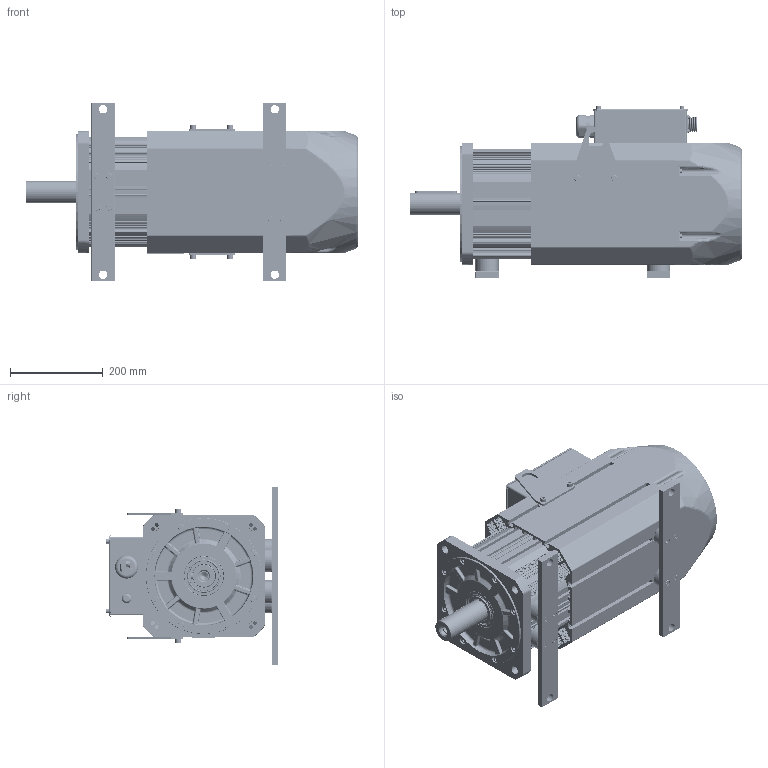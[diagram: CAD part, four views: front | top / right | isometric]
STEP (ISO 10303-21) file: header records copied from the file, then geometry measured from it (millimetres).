
FILE_DESCRIPTION((''),'2;1');
FILE_NAME('IMS20B-26M74D20C-4-R7F-A_ASM','2025-08-25T10:05:46',('0108698'),(''),'CREO PARAMETRIC BY PTC INC, 2019080','CREO PARAMETRIC BY PTC INC, 2019080','');
FILE_SCHEMA(('CONFIG_CONTROL_DESIGN'));
Products named in the file (72): 263T360_A; 631000; 80100320_AF0; 2630002_ASM; 2630003; 2630004; M6X160001; 50058-00152_AF0; 2630001_ASM; 263559_A; 2630005_ASM; 80100323_AF0; 263000_ASM; 50057-00008; 50036-00052; 50060-00059; 2630007_ASM; 2630009; 15000; 2630008_ASM; 50034-00098; _0001; 0001; 50051-00002; PDLD_4X12; 2630011; 00; M8X3000; 800; 0003; 0004; L990001; 2630010_ASM; 0005; ISO7045-M4X6-4_8; 0006; ISO7045-M4X8-4_8; WXJXDZ_40200-01002; 0007; _0002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
Assembly tree (142 placements, depth 4):
  IMS20B-26M74D20C-4-R7F-A_ASM
    2630001_ASM
      263T360_A
      631000
      2630002_ASM
        80100320_AF0
      2630003
      2630004
      M6X160001  x6
      50058-00152_AF0
    2630005_ASM
      263559_A
    263000_ASM
      80100323_AF0
    2630007_ASM
      50057-00008
      50036-00052
      50060-00059  x4
    2630008_ASM
      2630009
      15000
    50034-00098
    12116-00061_ASM
      _0001
      0001
      50051-00002
      PDLD_4X12  x4
      2630010_ASM
        2630011
        00  x3
        M8X3000  x6
        800  x6
        800  x6
        0003  x4
        0004
        L990001
      0005
      ISO7045-M4X6-4_8  x2
      0006
      ISO7045-M4X8-4_8
      WXJXDZ_40200-01002  x4
      0007
      _0002
      50060-00134  x4
      0008
      PG11
      PG36
    50034-00031  x2
    50034-00026  x2
    50058-00151_AF0
    50060-00071  x4
    50058-00152_AF1
    50060-00135  x4
    50058-00150
    50066-00059
    50060-00076  x4
    12118-00004_ASM
      80310919
      50034-00012
      80310916  x2
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Bounding box: 715 x 371 x 384 mm (x, y, z)
Volume: 14833625.1 mm3; surface area: 3555270.5 mm2
Topology: 148 solids, 260 shells, 7714 faces, 20132 edges, 13031 vertices
Faces by surface type: plane 3573, cylinder 2778, cone 505, bspline 481, torus 329, revolution 24, sphere 24
Entity records: 228574 total; most frequent: CARTESIAN_POINT 70671, DIRECTION 33163, ORIENTED_EDGE 32704, EDGE_CURVE 16484, AXIS2_PLACEMENT_3D 11953, VERTEX_POINT 10717, VECTOR 9233, LINE 9233
